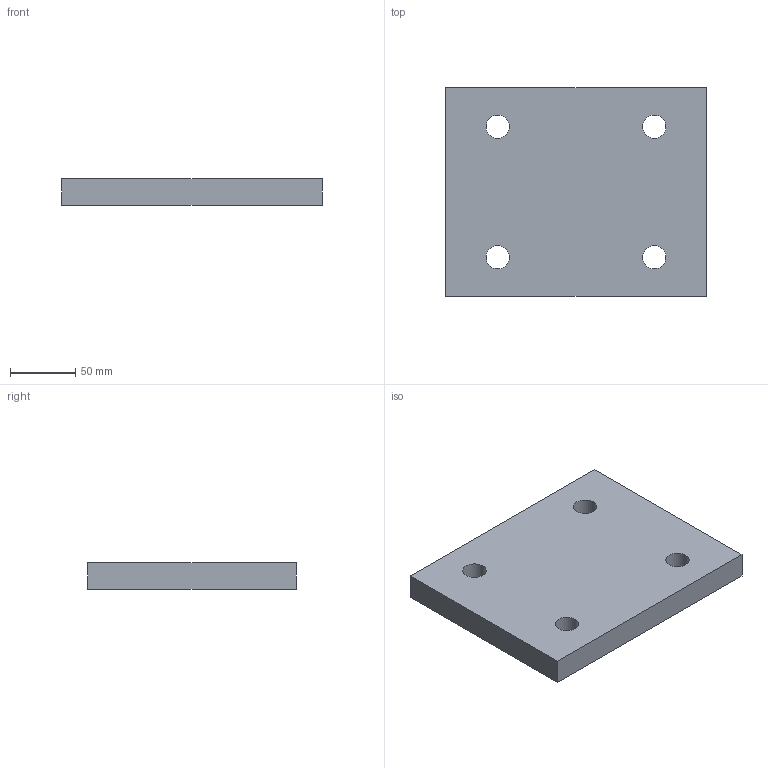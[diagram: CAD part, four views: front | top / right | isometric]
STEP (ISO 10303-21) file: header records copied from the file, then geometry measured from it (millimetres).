
FILE_DESCRIPTION(('Open CASCADE Model'),'2;1');
FILE_NAME('Open CASCADE Shape Model','2026-10-15T15:10:05',('Author'),( 'Open CASCADE'),'Open CASCADE STEP processor 8.0','Open CASCADE 8.0' ,'Unknown');
FILE_SCHEMA(('AUTOMOTIVE_DESIGN { 1 0 10303 214 1 1 1 1 }'));
Length unit declared in the file: millimetre
Products named in the file (1): TC08_ADAPTADOR_200x160x20_4D18_P05 142
Bounding box: 200 x 160 x 20 mm (x, y, z)
Volume: 619642.5 mm3; surface area: 80888.1 mm2
Topology: 1 solids, 1 shells, 10 faces, 24 edges, 16 vertices
Faces by surface type: plane 6, cylinder 4
Full cylindrical faces by diameter (mm): 18 x4
Entity records: 634 total; most frequent: DIRECTION 102, CARTESIAN_POINT 99, LINE 56, VECTOR 56, ORIENTED_EDGE 48, PCURVE 48, DEFINITIONAL_REPRESENTATION 48, EDGE_CURVE 24
